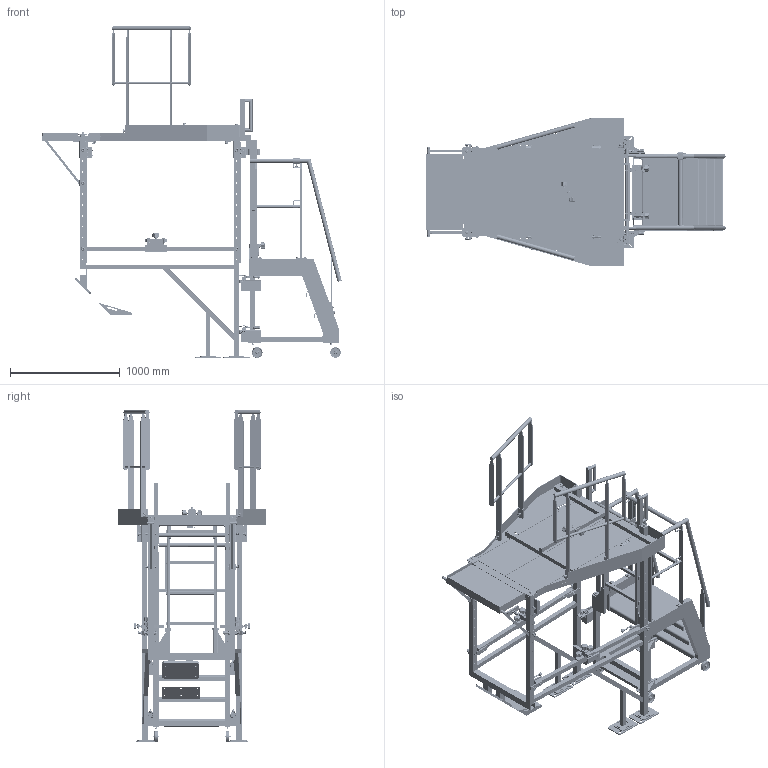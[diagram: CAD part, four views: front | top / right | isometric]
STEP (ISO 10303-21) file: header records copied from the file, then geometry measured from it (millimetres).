
FILE_DESCRIPTION((''),'2;1');
FILE_NAME('PLATEFORME_PI6_ML05','2026-06-02T15:50:23',('0z939456'),('TechnicAtome'),'CREO PARAMETRIC BY PTC INC, 2023494','CREO PARAMETRIC BY PTC INC, 2023494','');
FILE_SCHEMA(('AUTOMOTIVE_DESIGN { 1 0 10303 214 1 1 1 1 }'));
Products named in the file (307): 24052-70_-_ROND_EXTENSION_B_1; 24052-69_-_PLANCHER_EXTENSION_1; 24052-68_-_TUBE_CARR_X2_00E9__1; 24052-65_-_TUBE_CARR_X2_0-25443; 24052-66_-_TUBE_CARR_X2_00E9__1; 24052-65_-_TUBE_CARR_X2_0-25549; 24052-PI-11_-_EXTENSION_PASSE_1; 24052-258_-_PLINTHE_EXTENSION_A; EXTENSION_PASSERELLE_A; 24052_-_TUBE__X2_00D8_X0_25X2_A; TUBE_CARR_X2_00E9_X0__ALUMINIUM; U_REPRISE_BRAS_EXTENSION_A; BRAS_EXTENSION_A-25733; HEXAGON_SOCKET_FLAT_COUNT-25975; BOULON_M0_25_-_5_8_J; 24052-303_-_BLOCAGE__BRAS_EXTEN; BRAS_EXTENSION_A-26217; BROCHE_DE_CENTRAGE__X2_00-26436; HEXAGON_SOCKET_FLAT_COUNT-26499; RONDELLE_PLATE__NORMALE__-26567; ECROU_HEXAGONAL_ISO_4034_-_M8_A; BOULON_M0_375_-_1_J; VIS_TBHC_-_M5__X2_00D7_X0__10_2; 24052-PLA-129_-_CAPOT_DE_BO_X_2; GOUPILLE_CYLINDRIQUE_ISO_-27110; 24052-PLA-123-RESSORT_DE_TORS_2; 24052-PLA-118_-_BAGUE_PLASTIQ_2; 24052-PLA-121_-_CLIQUET_A_1_2; 24052-PLA-120_-_AXE_CLIQUET_B; 24052-PLA-126_-_RONDELLE_M12__2; GOUPILLE_CYLINDRIQUE_ISO_-27691; 24052-EPL-21_-_AXE_BO_X2_00EE_1; 24052-PLA-119_-_SUPPORT_CLIQU_2; 24052-PLA-122_-_SUPPORT_CLIQU_2; 24052-EPL-20_-_BO_X2_00EE_X0__1; VIS_SANS_T_X2_00EA_X0_TE__X2__1; 24052-EPL-19_-_BO_X2_00EE_X0__1; 24052-PLA-02_-_TUBE_CARR_X2_0_1; 24052-PLA-01_-_TUBE_CARR_X2_0_1; 24052-PLA-39_-_TUBE_CARR_X2_0_1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
Assembly tree (797 placements, depth 8):
  PLATEFORME_PI6_ML05
    24052-PI-12_-_PLATEFORME_PI6__1
      PLATELAGE_COMPLET_A
        EXTENSION_PASSERELLE_A
          24052-PI-11_-_EXTENSION_PASSE_1
            24052-70_-_ROND_EXTENSION_B_1  x2
            24052-69_-_PLANCHER_EXTENSION_1
            24052-68_-_TUBE_CARR_X2_00E9__1
            24052-65_-_TUBE_CARR_X2_0-25443
            24052-66_-_TUBE_CARR_X2_00E9__1
            24052-65_-_TUBE_CARR_X2_0-25549
          24052-258_-_PLINTHE_EXTENSION_A
        BRAS_EXTENSION_A-25733
          24052_-_TUBE__X2_00D8_X0_25X2_A
          TUBE_CARR_X2_00E9_X0__ALUMINIUM
          U_REPRISE_BRAS_EXTENSION_A
        BOULON_M0_25_-_5_8_J  x2
          HEXAGON_SOCKET_FLAT_COUNT-25975
        24052-303_-_BLOCAGE__BRAS_EXTEN  x2
        BRAS_EXTENSION_A-26217
          24052_-_TUBE__X2_00D8_X0_25X2_A
          TUBE_CARR_X2_00E9_X0__ALUMINIUM
          U_REPRISE_BRAS_EXTENSION_A
        BROCHE_DE_CENTRAGE__X2_00-26436  x2
        BOULON_M0_375_-_1_J  x24
          HEXAGON_SOCKET_FLAT_COUNT-26499
          RONDELLE_PLATE__NORMALE__-26567
          ECROU_HEXAGONAL_ISO_4034_-_M8_A
        24052-EPL-20_-_BO_X2_00EE_X0__1  x2
          VIS_TBHC_-_M5__X2_00D7_X0__10_2
          24052-PLA-129_-_CAPOT_DE_BO_X_2
          GOUPILLE_CYLINDRIQUE_ISO_-27110
          24052-PLA-123-RESSORT_DE_TORS_2
          24052-PLA-118_-_BAGUE_PLASTIQ_2
          24052-PLA-121_-_CLIQUET_A_1_2
          24052-EPL-21_-_AXE_BO_X2_00EE_1
            24052-PLA-120_-_AXE_CLIQUET_B
            24052-PLA-126_-_RONDELLE_M12__2  x2
            GOUPILLE_CYLINDRIQUE_ISO_-27691
          24052-PLA-119_-_SUPPORT_CLIQU_2
          24052-PLA-122_-_SUPPORT_CLIQU_2
        VIS_SANS_T_X2_00EA_X0_TE__X2__1  x10
        24052-EPL-19_-_BO_X2_00EE_X0__1  x2
          VIS_TBHC_-_M5__X2_00D7_X0__10_2
          24052-EPL-21_-_AXE_BO_X2_00EE_1
            24052-PLA-120_-_AXE_CLIQUET_B
            24052-PLA-126_-_RONDELLE_M12__2  x2
            GOUPILLE_CYLINDRIQUE_ISO_-27691
          24052-PLA-129_-_CAPOT_DE_BO_X_2
          24052-PLA-123-RESSORT_DE_TORS_2
          24052-PLA-118_-_BAGUE_PLASTIQ_2
          GOUPILLE_CYLINDRIQUE_ISO_-27110
          24052-PLA-121_-_CLIQUET_A_1_2
          24052-PLA-119_-_SUPPORT_CLIQU_2
          24052-PLA-122_-_SUPPORT_CLIQU_2
        OSSATURE_PLATELAGE_A
          24052-PLA-02_-_TUBE_CARR_X2_0_1
          24052-PLA-01_-_TUBE_CARR_X2_0_1
          24052-PLA-39_-_TUBE_CARR_X2_0_1
          24052-PLA-08_-_TUBE_CARR_X2_0_1
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Bounding box: 2727.43 x 1350 x 3025 mm (x, y, z)
Volume: 62984732.7 mm3; surface area: 29068570.1 mm2
Topology: 883 solids, 885 shells, 20304 faces, 51858 edges, 33823 vertices
Faces by surface type: plane 9743, cylinder 5697, extrusion 1699, cone 1671, torus 972, bspline 266, sphere 256
Entity records: 267472 total; most frequent: CARTESIAN_POINT 50299, DIRECTION 32820, ORIENTED_EDGE 30310, PRESENTATION_STYLE_ASSIGNMENT 15538, STYLED_ITEM 15271, EDGE_CURVE 15155, CURVE_STYLE 15035, AXIS2_PLACEMENT_3D 11880
